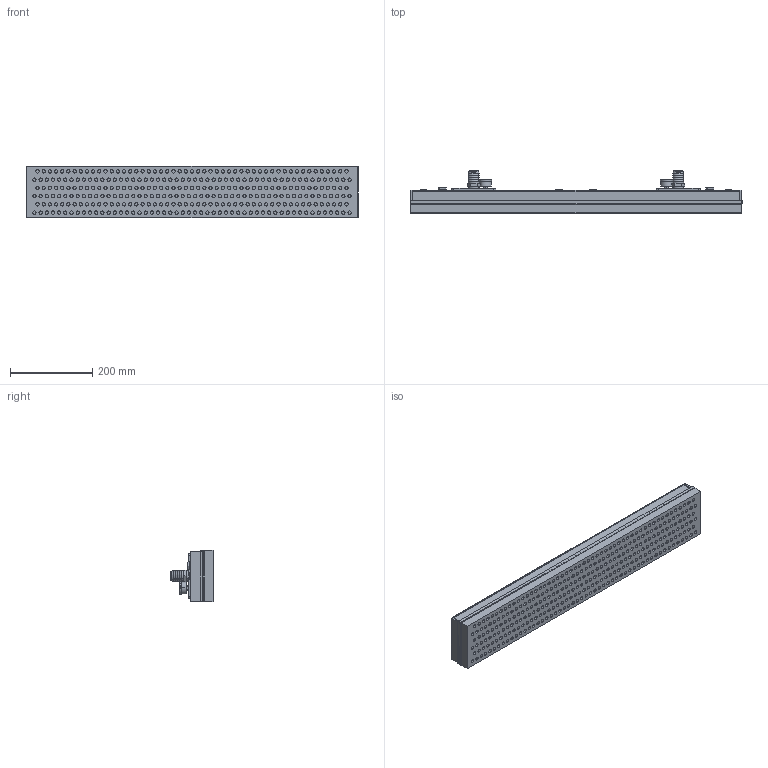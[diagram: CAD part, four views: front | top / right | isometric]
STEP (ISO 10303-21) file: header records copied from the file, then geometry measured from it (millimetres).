
FILE_DESCRIPTION (( 'STEP AP214' ), '1' );
FILE_NAME ('3-9-20281.STEP', '2012-08-31T09:05:53', ( 'cad' ), ( 'Microsoft' ), 'SwSTEP 2.0', 'SolidWorks 2012', '' );
FILE_SCHEMA (( 'AUTOMOTIVE_DESIGN' ));
Length unit declared in the file: millimetre
Products named in the file (1): 3-9-20281
Bounding box: 806 x 102 x 126 mm (x, y, z)
Volume: 5253023.7 mm3; surface area: 534621 mm2
Topology: 1 solids, 1 shells, 1375 faces, 2916 edges, 1912 vertices
Faces by surface type: cylinder 718, plane 561, cone 60, bspline 20, torus 16
Entity records: 50504 total; most frequent: CARTESIAN_POINT 7808, DIRECTION 7072, ORIENTED_EDGE 5832, EDGE_CURVE 2916, AXIS2_PLACEMENT_3D 2904, VERTEX_POINT 1912, EDGE_LOOP 1744, CIRCLE 1548
